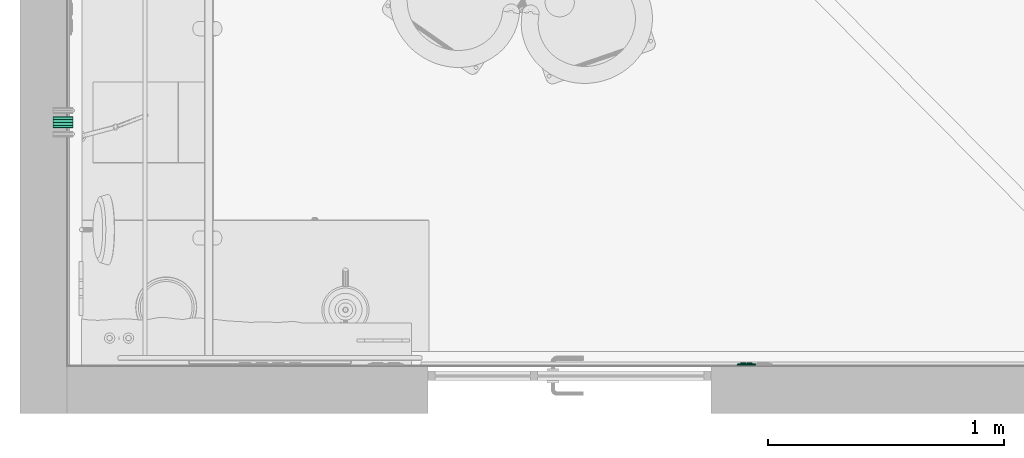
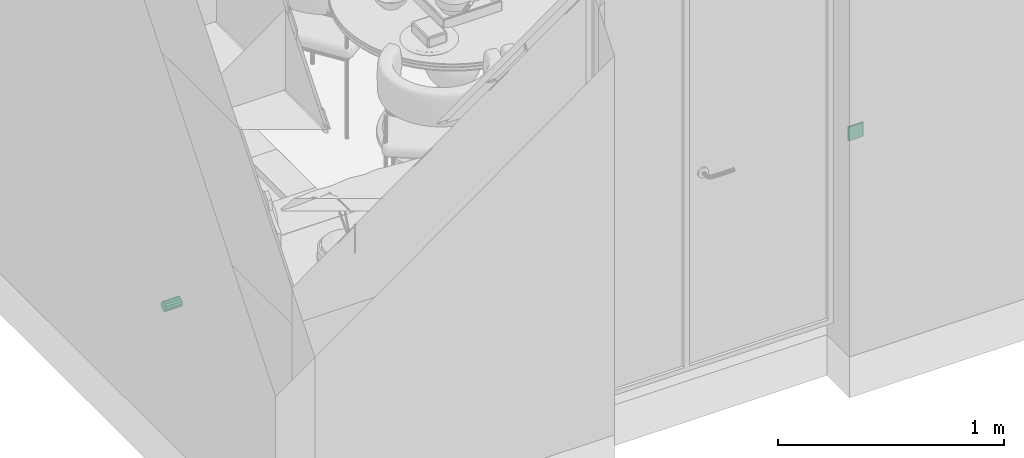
# One storey, part 5 of 11: 1 pipe fitting, 1 switching device.
"""IFC4 building model written with IfcOpenShell, lengths in millimetres."""

from ifc_helpers import new_model, si_unit, frame, origin_with_axes, place, context, subcontext, project, spatial, triangles, material, element, save


model = new_model("IFC4")

# Units and contexts
model_context = context("Model", 3, precision=0.01, world=origin_with_axes())
body_context = subcontext(model_context, "Body", "Model", "MODEL_VIEW")
ifc_project = project(units=[si_unit("LENGTHUNIT", "METRE", prefix="MILLI"), si_unit("AREAUNIT", "SQUARE_METRE"), si_unit("VOLUMEUNIT", "CUBIC_METRE"), si_unit("PLANEANGLEUNIT", "RADIAN")], contexts=[model_context])

# Site, building, storey
site_placement = place(None, origin_with_axes())
site = spatial("IfcSite", under=ifc_project, at=site_placement, Name="Участок", CompositionType="ELEMENT")
building_placement = place(site_placement, origin_with_axes())
building = spatial("IfcBuilding", under=site, at=building_placement, Name="Жилой дом", CompositionType="ELEMENT")
storey_placement = place(building_placement, origin_with_axes())
storey = spatial("IfcBuildingStorey", under=building, at=storey_placement, Name="Квартира ±0,000", CompositionType="ELEMENT", Elevation=0.0)

# Switching device
ifc_material_1 = material(Name="ЭУИ белые матовые (по кадру)")
switching_device_placement = place(storey_placement, frame((2840.0, 3.0, 900.0)))
element("IfcSwitchingDevice", 1, at=switching_device_placement, inside=storey, material=ifc_material_1, Name="Выключатель двухклавишный +900", PredefinedType="TOGGLESWITCH", context=body_context, shape_type="Tessellation", body=[
    triangles([(4.5, 4.5, 0.0), (4.5, 4.5, 0.0), (4.5, 4.5, 0.0), (4.5, 4.5, 0.0), (4.5, 4.5, 0.0), (75.5, 4.5, 0.0), (75.5, 4.5, 0.0), (75.5, 4.5, 0.0), (75.5, 4.5, 0.0), (75.5, 4.5, 0.0), (75.5, 4.5, 0.0), (75.5, 4.5, 0.0), (75.5, 4.5, 0.0), (75.5, 4.5, 0.0), (75.5, 4.5, 0.0), (4.5, 4.5, 0.0), (4.5, 4.5, 0.0), (4.5, 4.5, 0.0), (4.5, 4.5, 0.0), (4.5, 4.5, 0.0), (2.8, 4.5, 0.3), (2.9, 5.2, 0.3), (3.3, 5.7, 0.3), (3.8, 6.1, 0.3), (4.5, 6.2, 0.3), (75.5, 6.2, 0.3), (76.2, 6.1, 0.3), (76.7, 5.7, 0.3), (77.1, 5.2, 0.3), (77.2, 4.5, 0.3), (77.2, 4.5, 0.3), (77.1, 3.8, 0.3), (76.7, 3.3, 0.3), (76.2, 2.9, 0.3), (75.5, 2.8, 0.3), (4.5, 2.8, 0.3), (3.8, 2.9, 0.3), (3.3, 3.3, 0.3), (2.9, 3.8, 0.3), (2.8, 4.5, 0.3), (1.3, 4.5, 1.3), (1.6, 5.7, 1.3), (2.2, 6.8, 1.3), (3.3, 7.4, 1.3), (4.5, 7.7, 1.3), (75.5, 7.7, 1.3), (76.7, 7.4, 1.3), (77.8, 6.8, 1.3), (78.4, 5.7, 1.3), (78.7, 4.5, 1.3), (78.7, 4.5, 1.3), (78.4, 3.3, 1.3), (77.8, 2.2, 1.3), (76.7, 1.6, 1.3), (75.5, 1.3, 1.3), (4.5, 1.3, 1.3), (3.3, 1.6, 1.3), (2.2, 2.2, 1.3), (1.6, 3.3, 1.3), (1.3, 4.5, 1.3), (0.3, 4.5, 2.8), (0.7, 6.1, 2.8), (1.6, 7.4, 2.8), (2.9, 8.3, 2.8), (4.5, 8.7, 2.8), (75.5, 8.7, 2.8), (77.1, 8.3, 2.8), (78.4, 7.4, 2.8), (79.3, 6.1, 2.8), (79.7, 4.5, 2.8), (79.7, 4.5, 2.8), (79.3, 2.9, 2.8), (78.4, 1.6, 2.8), (77.1, 0.7, 2.8), (75.5, 0.3, 2.8), (4.5, 0.3, 2.8), (2.9, 0.7, 2.8), (1.6, 1.6, 2.8), (0.7, 2.9, 2.8), (0.3, 4.5, 2.8), (0.0, 4.5, 4.5), (0.3, 6.2, 4.5), (1.3, 7.7, 4.5), (2.8, 8.7, 4.5), (4.5, 9.0, 4.5), (75.5, 9.0, 4.5), (77.2, 8.7, 4.5), (78.7, 7.7, 4.5), (79.7, 6.2, 4.5), (80.0, 4.5, 4.5), (80.0, 4.5, 4.5), (79.7, 2.8, 4.5), (78.7, 1.3, 4.5), (77.2, 0.3, 4.5), (75.5, 0.0, 4.5), (4.5, 0.0, 4.5), (2.8, 0.3, 4.5), (1.3, 1.3, 4.5), (0.3, 2.8, 4.5), (0.0, 4.5, 4.5), (0.0, 4.5, 75.5), (0.3, 6.2, 75.5), (1.3, 7.7, 75.5), (2.8, 8.7, 75.5), (4.5, 9.0, 75.5), (75.5, 9.0, 75.5), (77.2, 8.7, 75.5), (78.7, 7.7, 75.5), (79.7, 6.2, 75.5), (80.0, 4.5, 75.5), (80.0, 4.5, 75.5), (79.7, 2.8, 75.5), (78.7, 1.3, 75.5), (77.2, 0.3, 75.5), (75.5, 0.0, 75.5), (4.5, 0.0, 75.5), (2.8, 0.3, 75.5), (1.3, 1.3, 75.5), (0.3, 2.8, 75.5), (0.0, 4.5, 75.5), (0.3, 4.5, 77.2), (0.7, 6.1, 77.2), (1.6, 7.4, 77.2), (2.9, 8.3, 77.2), (4.5, 8.7, 77.2), (75.5, 8.7, 77.2), (77.1, 8.3, 77.2), (78.4, 7.4, 77.2), (79.3, 6.1, 77.2), (79.7, 4.5, 77.2), (79.7, 4.5, 77.2), (79.3, 2.9, 77.2), (78.4, 1.6, 77.2), (77.1, 0.7, 77.2), (75.5, 0.3, 77.2), (4.5, 0.3, 77.2), (2.9, 0.7, 77.2), (1.6, 1.6, 77.2), (0.7, 2.9, 77.2), (0.3, 4.5, 77.2), (1.3, 4.5, 78.7), (1.6, 5.7, 78.7), (2.2, 6.8, 78.7), (3.3, 7.4, 78.7), (4.5, 7.7, 78.7), (75.5, 7.7, 78.7), (76.7, 7.4, 78.7), (77.8, 6.8, 78.7), (78.4, 5.7, 78.7), (78.7, 4.5, 78.7), (78.7, 4.5, 78.7), (78.4, 3.3, 78.7), (77.8, 2.2, 78.7), (76.7, 1.6, 78.7), (75.5, 1.3, 78.7), (4.5, 1.3, 78.7), (3.3, 1.6, 78.7), (2.2, 2.2, 78.7), (1.6, 3.3, 78.7), (1.3, 4.5, 78.7), (2.8, 4.5, 79.7), (2.9, 5.2, 79.7), (3.3, 5.7, 79.7), (3.8, 6.1, 79.7), (4.5, 6.2, 79.7), (75.5, 6.2, 79.7), (76.2, 6.1, 79.7), (76.7, 5.7, 79.7), (77.1, 5.2, 79.7), (77.2, 4.5, 79.7), (77.2, 4.5, 79.7), (77.1, 3.8, 79.7), (76.7, 3.3, 79.7), (76.2, 2.9, 79.7), (75.5, 2.8, 79.7), (4.5, 2.8, 79.7), (3.8, 2.9, 79.7), (3.3, 3.3, 79.7), (2.9, 3.8, 79.7), (2.8, 4.5, 79.7), (4.5, 4.5, 80.0), (4.5, 4.5, 80.0), (4.5, 4.5, 80.0), (4.5, 4.5, 80.0), (4.5, 4.5, 80.0), (75.5, 4.5, 80.0), (75.5, 4.5, 80.0), (75.5, 4.5, 80.0), (75.5, 4.5, 80.0), (75.5, 4.5, 80.0), (75.5, 4.5, 80.0), (75.5, 4.5, 80.0), (75.5, 4.5, 80.0), (75.5, 4.5, 80.0), (75.5, 4.5, 80.0), (4.5, 4.5, 80.0), (4.5, 4.5, 80.0), (4.5, 4.5, 80.0), (4.5, 4.5, 80.0), (4.5, 4.5, 80.0), (44.0, 11.0, 14.0), (44.0, 11.0, 14.0), (44.0, 11.0, 14.0), (62.0, 11.0, 14.0), (62.0, 11.0, 14.0), (62.0, 11.0, 14.0), (62.0, 11.0, 14.0), (62.0, 11.0, 14.0), (62.0, 11.0, 14.0), (44.0, 11.0, 14.0), (44.0, 11.0, 14.0), (44.0, 11.0, 14.0), (41.9, 11.0, 14.9), (42.5, 12.5, 14.9), (44.0, 13.1, 14.9), (62.0, 13.1, 14.9), (63.5, 12.5, 14.9), (64.1, 11.0, 14.9), (64.1, 11.0, 14.9), (63.5, 9.5, 14.9), (62.0, 8.9, 14.9), (44.0, 8.9, 14.9), (42.5, 9.5, 14.9), (41.9, 11.0, 14.9), (41.0, 11.0, 17.0), (41.9, 13.1, 17.0), (44.0, 14.0, 17.0), (62.0, 14.0, 17.0), (64.1, 13.1, 17.0), (65.0, 11.0, 17.0), (65.0, 11.0, 17.0), (64.1, 8.9, 17.0), (62.0, 8.0, 17.0), (44.0, 8.0, 17.0), (41.9, 8.9, 17.0), (41.0, 11.0, 17.0), (41.0, 11.0, 63.0), (41.9, 13.1, 63.0), (44.0, 14.0, 63.0), (62.0, 14.0, 63.0), (64.1, 13.1, 63.0), (65.0, 11.0, 63.0), (65.0, 11.0, 63.0), (64.1, 8.9, 63.0), (62.0, 8.0, 63.0), (44.0, 8.0, 63.0), (41.9, 8.9, 63.0), (41.0, 11.0, 63.0), (41.9, 11.0, 65.1), (42.5, 12.5, 65.1), (44.0, 13.1, 65.1), (62.0, 13.1, 65.1), (63.5, 12.5, 65.1), (64.1, 11.0, 65.1), (64.1, 11.0, 65.1), (63.5, 9.5, 65.1), (62.0, 8.9, 65.1), (44.0, 8.9, 65.1), (42.5, 9.5, 65.1), (41.9, 11.0, 65.1), (44.0, 11.0, 66.0), (44.0, 11.0, 66.0), (44.0, 11.0, 66.0), (62.0, 11.0, 66.0), (62.0, 11.0, 66.0), (62.0, 11.0, 66.0), (62.0, 11.0, 66.0), (62.0, 11.0, 66.0), (62.0, 11.0, 66.0), (44.0, 11.0, 66.0), (44.0, 11.0, 66.0), (44.0, 11.0, 66.0), (18.0, 11.0, 14.0), (18.0, 11.0, 14.0), (18.0, 11.0, 14.0), (36.0, 11.0, 14.0), (36.0, 11.0, 14.0), (36.0, 11.0, 14.0), (36.0, 11.0, 14.0), (36.0, 11.0, 14.0), (36.0, 11.0, 14.0), (18.0, 11.0, 14.0), (18.0, 11.0, 14.0), (18.0, 11.0, 14.0), (15.9, 11.0, 14.9), (16.5, 12.5, 14.9), (18.0, 13.1, 14.9), (36.0, 13.1, 14.9), (37.5, 12.5, 14.9), (38.1, 11.0, 14.9), (38.1, 11.0, 14.9), (37.5, 9.5, 14.9), (36.0, 8.9, 14.9), (18.0, 8.9, 14.9), (16.5, 9.5, 14.9), (15.9, 11.0, 14.9), (15.0, 11.0, 17.0), (15.9, 13.1, 17.0), (18.0, 14.0, 17.0), (36.0, 14.0, 17.0), (38.1, 13.1, 17.0), (39.0, 11.0, 17.0), (39.0, 11.0, 17.0), (38.1, 8.9, 17.0), (36.0, 8.0, 17.0), (18.0, 8.0, 17.0), (15.9, 8.9, 17.0), (15.0, 11.0, 17.0), (15.0, 11.0, 63.0), (15.9, 13.1, 63.0), (18.0, 14.0, 63.0), (36.0, 14.0, 63.0), (38.1, 13.1, 63.0), (39.0, 11.0, 63.0), (39.0, 11.0, 63.0), (38.1, 8.9, 63.0), (36.0, 8.0, 63.0), (18.0, 8.0, 63.0), (15.9, 8.9, 63.0), (15.0, 11.0, 63.0), (15.9, 11.0, 65.1), (16.5, 12.5, 65.1), (18.0, 13.1, 65.1), (36.0, 13.1, 65.1), (37.5, 12.5, 65.1), (38.1, 11.0, 65.1), (38.1, 11.0, 65.1), (37.5, 9.5, 65.1), (36.0, 8.9, 65.1), (18.0, 8.9, 65.1), (16.5, 9.5, 65.1), (15.9, 11.0, 65.1), (18.0, 11.0, 66.0), (18.0, 11.0, 66.0), (18.0, 11.0, 66.0), (36.0, 11.0, 66.0), (36.0, 11.0, 66.0), (36.0, 11.0, 66.0), (36.0, 11.0, 66.0), (36.0, 11.0, 66.0), (36.0, 11.0, 66.0), (18.0, 11.0, 66.0), (18.0, 11.0, 66.0), (18.0, 11.0, 66.0)], [[1, 2, 22], [1, 22, 21], [2, 3, 23], [2, 23, 22], [3, 4, 24], [3, 24, 23], [4, 5, 25], [4, 25, 24], [5, 6, 26], [5, 26, 25], [6, 7, 27], [6, 27, 26], [7, 8, 28], [7, 28, 27], [8, 9, 29], [8, 29, 28], [9, 10, 30], [9, 30, 29], [10, 11, 31], [10, 31, 30], [11, 12, 32], [11, 32, 31], [12, 13, 33], [12, 33, 32], [13, 14, 34], [13, 34, 33], [14, 15, 35], [14, 35, 34], [15, 16, 36], [15, 36, 35], [16, 17, 37], [16, 37, 36], [17, 18, 38], [17, 38, 37], [18, 19, 39], [18, 39, 38], [19, 20, 40], [19, 40, 39], [20, 1, 21], [20, 21, 40], [21, 22, 42], [21, 42, 41], [22, 23, 43], [22, 43, 42], [23, 24, 44], [23, 44, 43], [24, 25, 45], [24, 45, 44], [25, 26, 46], [25, 46, 45], [26, 27, 47], [26, 47, 46], [27, 28, 48], [27, 48, 47], [28, 29, 49], [28, 49, 48], [29, 30, 50], [29, 50, 49], [30, 31, 51], [30, 51, 50], [31, 32, 52], [31, 52, 51], [32, 33, 53], [32, 53, 52], [33, 34, 54], [33, 54, 53], [34, 35, 55], [34, 55, 54], [35, 36, 56], [35, 56, 55], [36, 37, 57], [36, 57, 56], [37, 38, 58], [37, 58, 57], [38, 39, 59], [38, 59, 58], [39, 40, 60], [39, 60, 59], [40, 21, 41], [40, 41, 60], [41, 42, 62], [41, 62, 61], [42, 43, 63], [42, 63, 62], [43, 44, 64], [43, 64, 63], [44, 45, 65], [44, 65, 64], [45, 46, 66], [45, 66, 65], [46, 47, 67], [46, 67, 66], [47, 48, 68], [47, 68, 67], [48, 49, 69], [48, 69, 68], [49, 50, 70], [49, 70, 69], [50, 51, 71], [50, 71, 70], [51, 52, 72], [51, 72, 71], [52, 53, 73], [52, 73, 72], [53, 54, 74], [53, 74, 73], [54, 55, 75], [54, 75, 74], [55, 56, 76], [55, 76, 75], [56, 57, 77], [56, 77, 76], [57, 58, 78], [57, 78, 77], [58, 59, 79], [58, 79, 78], [59, 60, 80], [59, 80, 79], [60, 41, 61], [60, 61, 80], [61, 62, 82], [61, 82, 81], [62, 63, 83], [62, 83, 82], [63, 64, 84], [63, 84, 83], [64, 65, 85], [64, 85, 84], [65, 66, 86], [65, 86, 85], [66, 67, 87], [66, 87, 86], [67, 68, 88], [67, 88, 87], [68, 69, 89], [68, 89, 88], [69, 70, 90], [69, 90, 89], [70, 71, 91], [70, 91, 90], [71, 72, 92], [71, 92, 91], [72, 73, 93], [72, 93, 92], [73, 74, 94], [73, 94, 93], [74, 75, 95], [74, 95, 94], [75, 76, 96], [75, 96, 95], [76, 77, 97], [76, 97, 96], [77, 78, 98], [77, 98, 97], [78, 79, 99], [78, 99, 98], [79, 80, 100], [79, 100, 99], [80, 61, 81], [80, 81, 100], [81, 82, 102], [81, 102, 101], [82, 83, 103], [82, 103, 102], [83, 84, 104], [83, 104, 103], [84, 85, 105], [84, 105, 104], [85, 86, 106], [85, 106, 105], [86, 87, 107], [86, 107, 106], [87, 88, 108], [87, 108, 107], [88, 89, 109], [88, 109, 108], [89, 90, 110], [89, 110, 109], [90, 91, 111], [90, 111, 110], [91, 92, 112], [91, 112, 111], [92, 93, 113], [92, 113, 112], [93, 94, 114], [93, 114, 113], [94, 95, 115], [94, 115, 114], [95, 96, 116], [95, 116, 115], [96, 97, 117], [96, 117, 116], [97, 98, 118], [97, 118, 117], [98, 99, 119], [98, 119, 118], [99, 100, 120], [99, 120, 119], [100, 81, 101], [100, 101, 120], [101, 102, 122], [101, 122, 121], [102, 103, 123], [102, 123, 122], [103, 104, 124], [103, 124, 123], [104, 105, 125], [104, 125, 124], [105, 106, 126], [105, 126, 125], [106, 107, 127], [106, 127, 126], [107, 108, 128], [107, 128, 127], [108, 109, 129], [108, 129, 128], [109, 110, 130], [109, 130, 129], [110, 111, 131], [110, 131, 130], [111, 112, 132], [111, 132, 131], [112, 113, 133], [112, 133, 132], [113, 114, 134], [113, 134, 133], [114, 115, 135], [114, 135, 134], [115, 116, 136], [115, 136, 135], [116, 117, 137], [116, 137, 136], [117, 118, 138], [117, 138, 137], [118, 119, 139], [118, 139, 138], [119, 120, 140], [119, 140, 139], [120, 101, 121], [120, 121, 140], [121, 122, 142], [121, 142, 141], [122, 123, 143], [122, 143, 142], [123, 124, 144], [123, 144, 143], [124, 125, 145], [124, 145, 144], [125, 126, 146], [125, 146, 145], [126, 127, 147], [126, 147, 146], [127, 128, 148], [127, 148, 147], [128, 129, 149], [128, 149, 148], [129, 130, 150], [129, 150, 149], [130, 131, 151], [130, 151, 150], [131, 132, 152], [131, 152, 151], [132, 133, 153], [132, 153, 152], [133, 134, 154], [133, 154, 153], [134, 135, 155], [134, 155, 154], [135, 136, 156], [135, 156, 155], [136, 137, 157], [136, 157, 156], [137, 138, 158], [137, 158, 157], [138, 139, 159], [138, 159, 158], [139, 140, 160], [139, 160, 159], [140, 121, 141], [140, 141, 160], [141, 142, 162], [141, 162, 161], [142, 143, 163], [142, 163, 162], [143, 144, 164], [143, 164, 163], [144, 145, 165], [144, 165, 164], [145, 146, 166], [145, 166, 165], [146, 147, 167], [146, 167, 166], [147, 148, 168], [147, 168, 167], [148, 149, 169], [148, 169, 168], [149, 150, 170], [149, 170, 169], [150, 151, 171], [150, 171, 170], [151, 152, 172], [151, 172, 171], [152, 153, 173], [152, 173, 172], [153, 154, 174], [153, 174, 173], [154, 155, 175], [154, 175, 174], [155, 156, 176], [155, 176, 175], [156, 157, 177], [156, 177, 176], [157, 158, 178], [157, 178, 177], [158, 159, 179], [158, 179, 178], [159, 160, 180], [159, 180, 179], [160, 141, 161], [160, 161, 180], [161, 162, 182], [161, 182, 181], [162, 163, 183], [162, 183, 182], [163, 164, 184], [163, 184, 183], [164, 165, 185], [164, 185, 184], [165, 166, 186], [165, 186, 185], [166, 167, 187], [166, 187, 186], [167, 168, 188], [167, 188, 187], [168, 169, 189], [168, 189, 188], [169, 170, 190], [169, 190, 189], [170, 171, 191], [170, 191, 190], [171, 172, 192], [171, 192, 191], [172, 173, 193], [172, 193, 192], [173, 174, 194], [173, 194, 193], [174, 175, 195], [174, 195, 194], [175, 176, 196], [175, 196, 195], [176, 177, 197], [176, 197, 196], [177, 178, 198], [177, 198, 197], [178, 179, 199], [178, 199, 198], [179, 180, 200], [179, 200, 199], [180, 161, 181], [180, 181, 200], [201, 202, 214], [201, 214, 213], [202, 203, 215], [202, 215, 214], [203, 204, 216], [203, 216, 215], [204, 205, 217], [204, 217, 216], [205, 206, 218], [205, 218, 217], [206, 207, 219], [206, 219, 218], [207, 208, 220], [207, 220, 219], [208, 209, 221], [208, 221, 220], [209, 210, 222], [209, 222, 221], [210, 211, 223], [210, 223, 222], [211, 212, 224], [211, 224, 223], [212, 201, 213], [212, 213, 224], [213, 214, 226], [213, 226, 225], [214, 215, 227], [214, 227, 226], [215, 216, 228], [215, 228, 227], [216, 217, 229], [216, 229, 228], [217, 218, 230], [217, 230, 229], [218, 219, 231], [218, 231, 230], [219, 220, 232], [219, 232, 231], [220, 221, 233], [220, 233, 232], [221, 222, 234], [221, 234, 233], [222, 223, 235], [222, 235, 234], [223, 224, 236], [223, 236, 235], [224, 213, 225], [224, 225, 236], [225, 226, 238], [225, 238, 237], [226, 227, 239], [226, 239, 238], [227, 228, 240], [227, 240, 239], [228, 229, 241], [228, 241, 240], [229, 230, 242], [229, 242, 241], [230, 231, 243], [230, 243, 242], [231, 232, 244], [231, 244, 243], [232, 233, 245], [232, 245, 244], [233, 234, 246], [233, 246, 245], [234, 235, 247], [234, 247, 246], [235, 236, 248], [235, 248, 247], [236, 225, 237], [236, 237, 248], [237, 238, 250], [237, 250, 249], [238, 239, 251], [238, 251, 250], [239, 240, 252], [239, 252, 251], [240, 241, 253], [240, 253, 252], [241, 242, 254], [241, 254, 253], [242, 243, 255], [242, 255, 254], [243, 244, 256], [243, 256, 255], [244, 245, 257], [244, 257, 256], [245, 246, 258], [245, 258, 257], [246, 247, 259], [246, 259, 258], [247, 248, 260], [247, 260, 259], [248, 237, 249], [248, 249, 260], [249, 250, 262], [249, 262, 261], [250, 251, 263], [250, 263, 262], [251, 252, 264], [251, 264, 263], [252, 253, 265], [252, 265, 264], [253, 254, 266], [253, 266, 265], [254, 255, 267], [254, 267, 266], [255, 256, 268], [255, 268, 267], [256, 257, 269], [256, 269, 268], [257, 258, 270], [257, 270, 269], [258, 259, 271], [258, 271, 270], [259, 260, 272], [259, 272, 271], [260, 249, 261], [260, 261, 272], [273, 274, 286], [273, 286, 285], [274, 275, 287], [274, 287, 286], [275, 276, 288], [275, 288, 287], [276, 277, 289], [276, 289, 288], [277, 278, 290], [277, 290, 289], [278, 279, 291], [278, 291, 290], [279, 280, 292], [279, 292, 291], [280, 281, 293], [280, 293, 292], [281, 282, 294], [281, 294, 293], [282, 283, 295], [282, 295, 294], [283, 284, 296], [283, 296, 295], [284, 273, 285], [284, 285, 296], [285, 286, 298], [285, 298, 297], [286, 287, 299], [286, 299, 298], [287, 288, 300], [287, 300, 299], [288, 289, 301], [288, 301, 300], [289, 290, 302], [289, 302, 301], [290, 291, 303], [290, 303, 302], [291, 292, 304], [291, 304, 303], [292, 293, 305], [292, 305, 304], [293, 294, 306], [293, 306, 305], [294, 295, 307], [294, 307, 306], [295, 296, 308], [295, 308, 307], [296, 285, 297], [296, 297, 308], [297, 298, 310], [297, 310, 309], [298, 299, 311], [298, 311, 310], [299, 300, 312], [299, 312, 311], [300, 301, 313], [300, 313, 312], [301, 302, 314], [301, 314, 313], [302, 303, 315], [302, 315, 314], [303, 304, 316], [303, 316, 315], [304, 305, 317], [304, 317, 316], [305, 306, 318], [305, 318, 317], [306, 307, 319], [306, 319, 318], [307, 308, 320], [307, 320, 319], [308, 297, 309], [308, 309, 320], [309, 310, 322], [309, 322, 321], [310, 311, 323], [310, 323, 322], [311, 312, 324], [311, 324, 323], [312, 313, 325], [312, 325, 324], [313, 314, 326], [313, 326, 325], [314, 315, 327], [314, 327, 326], [315, 316, 328], [315, 328, 327], [316, 317, 329], [316, 329, 328], [317, 318, 330], [317, 330, 329], [318, 319, 331], [318, 331, 330], [319, 320, 332], [319, 332, 331], [320, 309, 321], [320, 321, 332], [321, 322, 334], [321, 334, 333], [322, 323, 335], [322, 335, 334], [323, 324, 336], [323, 336, 335], [324, 325, 337], [324, 337, 336], [325, 326, 338], [325, 338, 337], [326, 327, 339], [326, 339, 338], [327, 328, 340], [327, 340, 339], [328, 329, 341], [328, 341, 340], [329, 330, 342], [329, 342, 341], [330, 331, 343], [330, 343, 342], [331, 332, 344], [331, 344, 343], [332, 321, 333], [332, 333, 344]]),
])

# Pipe fitting
ifc_material_2 = material(Name="Полипропилен серый (канализация)")
pipe_fitting_placement = place(storey_placement, frame((-60.0, 1010.0, 375.0)))
element("IfcPipeFitting", 2, at=pipe_fitting_placement, inside=storey, material=ifc_material_2, Name="Вывод канализации Ø50 — С1 мойка", PredefinedType="EXIT", context=body_context, shape_type="Tessellation", body=[
    triangles([(0.0, 0.0, 25.0), (0.0, 3.3, 12.5), (85.0, 3.3, 12.5), (85.0, 0.0, 25.0), (0.0, 3.3, 12.5), (0.0, 12.5, 3.3), (85.0, 12.5, 3.3), (85.0, 3.3, 12.5), (0.0, 12.5, 3.3), (0.0, 25.0, 0.0), (85.0, 25.0, 0.0), (85.0, 12.5, 3.3), (0.0, 25.0, 0.0), (0.0, 37.5, 3.3), (85.0, 37.5, 3.3), (85.0, 25.0, 0.0), (0.0, 37.5, 3.3), (0.0, 46.7, 12.5), (85.0, 46.7, 12.5), (85.0, 37.5, 3.3), (0.0, 46.7, 12.5), (0.0, 50.0, 25.0), (85.0, 50.0, 25.0), (85.0, 46.7, 12.5), (0.0, 50.0, 25.0), (0.0, 46.7, 37.5), (85.0, 46.7, 37.5), (85.0, 50.0, 25.0), (0.0, 46.7, 37.5), (0.0, 37.5, 46.7), (85.0, 37.5, 46.7), (85.0, 46.7, 37.5), (0.0, 37.5, 46.7), (0.0, 25.0, 50.0), (85.0, 25.0, 50.0), (85.0, 37.5, 46.7), (0.0, 25.0, 50.0), (0.0, 12.5, 46.7), (85.0, 12.5, 46.7), (85.0, 25.0, 50.0), (0.0, 12.5, 46.7), (0.0, 3.3, 37.5), (85.0, 3.3, 37.5), (85.0, 12.5, 46.7), (0.0, 3.3, 37.5), (0.0, 0.0, 25.0), (85.0, 0.0, 25.0), (85.0, 3.3, 37.5), (85.0, 0.0, 25.0), (85.0, 3.3, 12.5), (85.0, 12.5, 3.3), (85.0, 25.0, 0.0), (85.0, 37.5, 3.3), (85.0, 46.7, 12.5), (85.0, 50.0, 25.0), (85.0, 46.7, 37.5), (85.0, 37.5, 46.7), (85.0, 25.0, 50.0), (85.0, 12.5, 46.7), (85.0, 3.3, 37.5), (0.0, 3.3, 37.5), (0.0, 12.5, 46.7), (0.0, 25.0, 50.0), (0.0, 37.5, 46.7), (0.0, 46.7, 37.5), (0.0, 50.0, 25.0), (0.0, 46.7, 12.5), (0.0, 37.5, 3.3), (0.0, 25.0, 0.0), (0.0, 12.5, 3.3), (0.0, 3.3, 12.5), (0.0, 0.0, 25.0)], [[1, 2, 3], [1, 3, 4], [5, 6, 7], [5, 7, 8], [9, 10, 11], [9, 11, 12], [13, 14, 15], [13, 15, 16], [17, 18, 19], [17, 19, 20], [21, 22, 23], [21, 23, 24], [25, 26, 27], [25, 27, 28], [29, 30, 31], [29, 31, 32], [33, 34, 35], [33, 35, 36], [37, 38, 39], [37, 39, 40], [41, 42, 43], [41, 43, 44], [45, 46, 47], [45, 47, 48], [49, 50, 51], [49, 51, 52], [49, 52, 53], [49, 53, 54], [49, 54, 55], [49, 55, 56], [49, 56, 57], [49, 57, 58], [49, 58, 59], [49, 59, 60], [61, 62, 63], [61, 63, 64], [61, 64, 65], [61, 65, 66], [61, 66, 67], [61, 67, 68], [61, 68, 69], [61, 69, 70], [61, 70, 71], [61, 71, 72]]),
])

save(model, "model.ifc")
